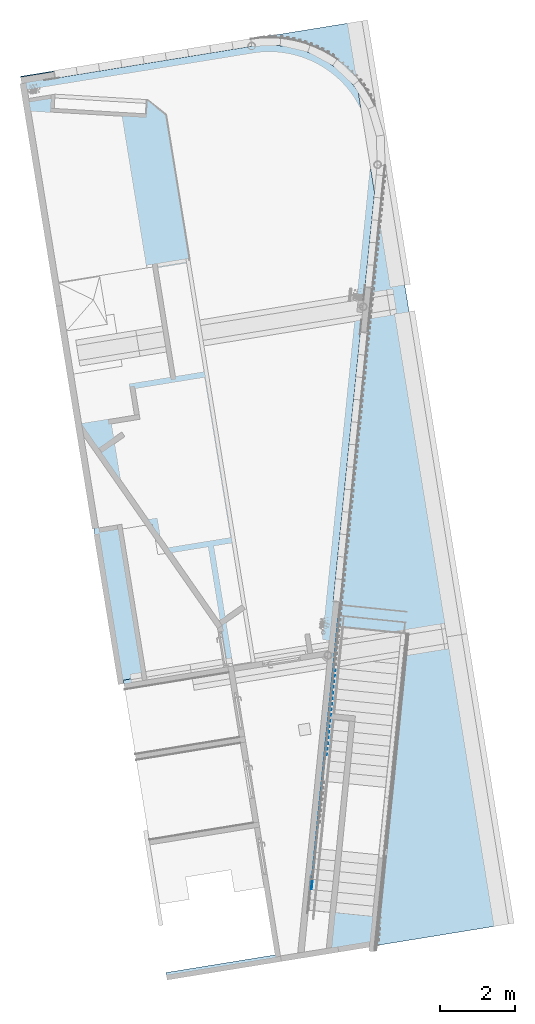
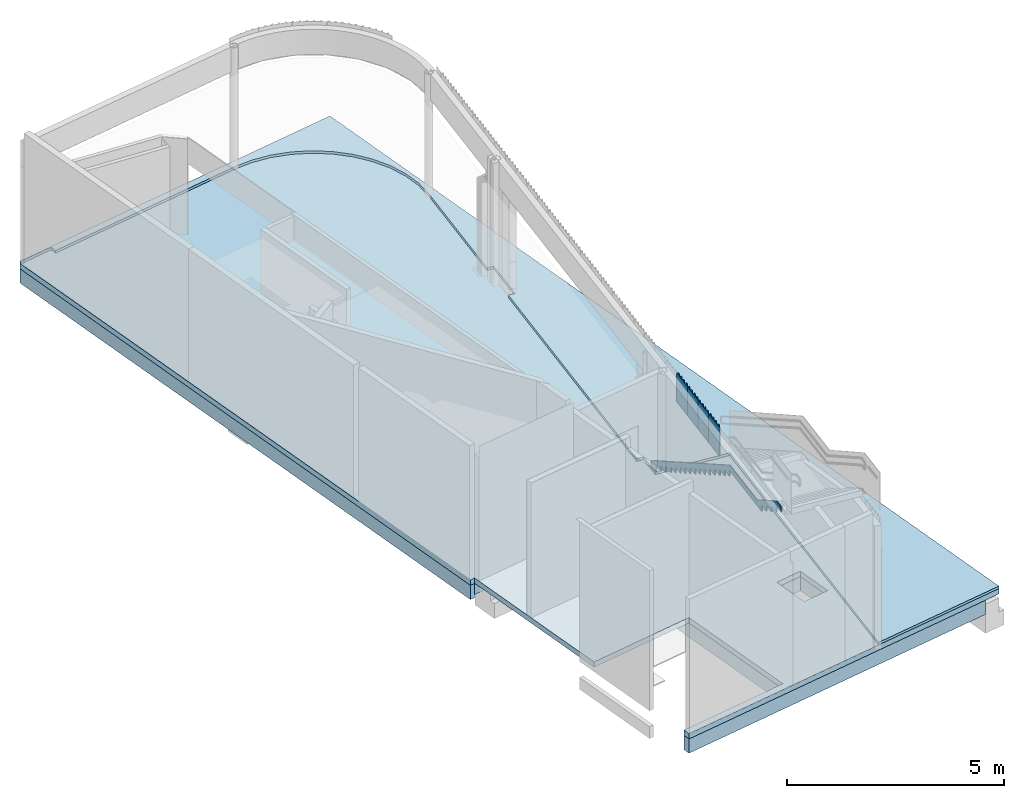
# One storey, part 14 of 23: 5 plates, 3 slabs, 2 elements without a shape of their own.
"""IFC2X3 building model written with IfcOpenShell, lengths in millimetres."""

from ifc_helpers import new_model, entity, si_unit, converted_unit, derived_unit, direction, frame, origin, origin_with_axes, place, context, subcontext, project, spatial, faceted_brep, material, layer, layer_set, type_object, element, aggregate, save


model = new_model("IFC2X3")

# Units and contexts
plan_context = context("Plan", 3, precision=1e-05, world=origin_with_axes())
model_context = context("Model", 3, precision=0.01, world=origin(), true_north=direction((6.12323399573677e-17, 1.0)))
body_context = subcontext(model_context, "Body", "Model", "MODEL_VIEW")
ifc_project = project(units=[converted_unit("PLANEANGLEUNIT", "DEGREE", entity("IfcPositiveLengthMeasure", 0.0174532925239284), si_unit("PLANEANGLEUNIT", "RADIAN"), dimensions=[0, 0, 0, 0, 0, 0, 0]), si_unit("AREAUNIT", "SQUARE_METRE"), si_unit("LENGTHUNIT", "METRE", prefix="MILLI"), si_unit("MASSUNIT", "GRAM", prefix="KILO"), si_unit("POWERUNIT", "WATT"), si_unit("PRESSUREUNIT", "PASCAL", prefix="KILO"), si_unit("FORCEUNIT", "NEWTON", prefix="KILO"), si_unit("ELECTRICVOLTAGEUNIT", "VOLT"), si_unit("ELECTRICCURRENTUNIT", "AMPERE"), si_unit("THERMODYNAMICTEMPERATUREUNIT", "DEGREE_CELSIUS"), si_unit("TIMEUNIT", "SECOND"), si_unit("VOLUMEUNIT", "CUBIC_METRE"), derived_unit("LINEARVELOCITYUNIT", [(si_unit("LENGTHUNIT", "METRE"), 1), (si_unit("TIMEUNIT", "SECOND"), -1)]), derived_unit("VOLUMETRICFLOWRATEUNIT", [(si_unit("VOLUMEUNIT", "CUBIC_METRE"), 1), (si_unit("TIMEUNIT", "SECOND"), -1)]), derived_unit("THERMALTRANSMITTANCEUNIT", [(si_unit("POWERUNIT", "WATT"), 1), (si_unit("THERMODYNAMICTEMPERATUREUNIT", "KELVIN"), -1), (si_unit("AREAUNIT", "SQUARE_METRE"), -1)]), derived_unit("SOUNDPRESSUREUNIT", [(si_unit("PRESSUREUNIT", "PASCAL"), 1)])], contexts=[model_context, plan_context])

# Site, building, storey
site_placement = place(None, frame((-0.00071070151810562, 0.00438415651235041, 0.0), z_axis=(0.0, 0.0, 1.0), x_axis=(-0.160236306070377, 0.987078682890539, 0.0)))
site = spatial("IfcSite", under=ifc_project, at=site_placement, Name="Default", CompositionType="ELEMENT")
building_placement = place(site_placement, origin_with_axes())
building = spatial("IfcBuilding", under=site, at=building_placement, Name="TOO", CompositionType="ELEMENT")
storey_placement = place(building_placement, frame((0.0, 0.0, 58999.9999999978), z_axis=(0.0, 0.0, 1.0), x_axis=(1.0, 0.0, 0.0)))
storey = spatial("IfcBuildingStorey", under=building, at=storey_placement, Name="Nivå F", CompositionType="ELEMENT", Elevation=58999.9999999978)

# Curtain wall, plates
curtain_wall_type = type_object("IfcCurtainWallType", Name="Curtain Wall:Curtain Wall Standard (Bruk kun denne)", PredefinedType="NOTDEFINED")
curtain_wall_1_placement = place(storey_placement, frame((0.0, 0.0, -58999.9999999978), z_axis=(0.0, 0.0, 1.0), x_axis=(1.0, 0.0, 0.0)))
curtain_wall_1 = element("IfcCurtainWall", 1, at=curtain_wall_1_placement, inside=storey, type_object=curtain_wall_type, Name="Curtain Wall:Curtain Wall Standard (Bruk kun denne)", ObjectType="Curtain Wall:Curtain Wall Standard (Bruk kun denne)")
ifc_material_1 = material(Name="A200 - Treverk - Eik")
plate_type_1 = type_object("IfcPlateType", Name="A246 - T01 Trespiler-panel 600:A246-T01 Trespiler-panel 600", PredefinedType="CURTAIN_PANEL", material=ifc_material_1)
plate_1_placement = place(curtain_wall_1_placement, frame((768454.602285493, -506055.175292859, 61699.9999999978), z_axis=(0.0, 0.0, 1.0), x_axis=(0.965925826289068, -0.258819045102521, 0.0)))
plate_1 = element("IfcPlate", 2, at=plate_1_placement, type_object=plate_type_1, Name="A246 - T01 Trespiler-panel 600:A246-T01 Trespiler-panel 600", ObjectType="A246 - T01 Trespiler-panel 600:A246-T01 Trespiler-panel 600", context=body_context, shape_type="Brep", body=[
    faceted_brep([(-150.0, -50.0000000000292, 800.000000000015), (-150.0, -9.99999999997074, 800.000000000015), (-150.0, -9.99999999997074, 0.0), (-150.0, -50.0000000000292, 0.0), (-190.0, -9.99999999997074, 800.000000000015), (-190.0, -9.99999999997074, 0.0), (-190.0, -50.0000000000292, 800.000000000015), (-190.0, -50.0000000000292, 0.0)], [[[0, 1, 2, 3]], [[1, 4, 5, 2]], [[4, 6, 7, 5]], [[6, 0, 3, 7]], [[3, 2, 5, 7]], [[6, 4, 1, 0]]], orient=[[False], [False], [False], [False], [False], [False]]),
    faceted_brep([(-3.5527136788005e-15, -50.0000000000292, 800.000000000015), (-3.5527136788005e-15, -9.99999999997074, 800.000000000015), (-3.5527136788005e-15, -9.99999999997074, 0.0), (-3.5527136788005e-15, -50.0000000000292, 0.0), (-40.0, -9.99999999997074, 800.000000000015), (-40.0, -9.99999999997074, 0.0), (-40.0, -50.0000000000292, 800.000000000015), (-40.0, -50.0000000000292, 0.0)], [[[0, 1, 2, 3]], [[1, 4, 5, 2]], [[4, 6, 7, 5]], [[6, 0, 3, 7]], [[3, 2, 5, 7]], [[6, 4, 1, 0]]], orient=[[False], [False], [False], [False], [False], [False]]),
    faceted_brep([(150.0, -50.0000000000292, 800.000000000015), (150.0, -9.99999999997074, 800.000000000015), (150.0, -9.99999999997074, 0.0), (150.0, -50.0000000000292, 0.0), (110.0, -9.99999999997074, 800.000000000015), (110.0, -9.99999999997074, 0.0), (110.0, -50.0000000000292, 800.000000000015), (110.0, -50.0000000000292, 0.0)], [[[0, 1, 2, 3]], [[1, 4, 5, 2]], [[4, 6, 7, 5]], [[6, 0, 3, 7]], [[3, 2, 5, 7]], [[6, 4, 1, 0]]], orient=[[False], [False], [False], [False], [False], [False]]),
    faceted_brep([(300.0, -50.0000000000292, 800.000000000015), (300.0, -9.99999999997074, 800.000000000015), (300.0, -9.99999999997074, 0.0), (300.0, -50.0000000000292, 0.0), (260.0, -9.99999999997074, 800.000000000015), (260.0, -9.99999999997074, 0.0), (260.0, -50.0000000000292, 800.000000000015), (260.0, -50.0000000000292, 0.0)], [[[0, 1, 2, 3]], [[1, 4, 5, 2]], [[4, 6, 7, 5]], [[6, 0, 3, 7]], [[3, 2, 5, 7]], [[6, 4, 1, 0]]], orient=[[False], [False], [False], [False], [False], [False]]),
    faceted_brep([(300.0, -10.0, 800.000000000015), (300.0, 0.0, 800.000000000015), (300.0, 0.0, 0.0), (300.0, -10.0, 0.0), (-300.0, 0.0, 800.000000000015), (-300.0, 0.0, 0.0), (-300.0, -10.0, 800.000000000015), (-300.0, -10.0, 0.0)], [[[0, 1, 2, 3]], [[1, 4, 5, 2]], [[4, 6, 7, 5]], [[6, 0, 3, 7]], [[3, 2, 5, 7]], [[6, 4, 1, 0]]], orient=[[False], [False], [False], [False], [False], [False]]),
])
plate_2_placement = place(curtain_wall_1_placement, frame((769034.157781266, -506210.466719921, 61699.9999999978), z_axis=(0.0, 0.0, 1.0), x_axis=(0.965925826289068, -0.258819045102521, 0.0)))
plate_2 = element("IfcPlate", 3, at=plate_2_placement, type_object=plate_type_1, Name="A246 - T01 Trespiler-panel 600:A246-T01 Trespiler-panel 600", ObjectType="A246 - T01 Trespiler-panel 600:A246-T01 Trespiler-panel 600", context=body_context, shape_type="Brep", body=[
    faceted_brep([(-150.0, -50.0000000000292, 800.000000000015), (-150.0, -9.99999999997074, 800.000000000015), (-150.0, -9.99999999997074, 0.0), (-150.0, -50.0000000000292, 0.0), (-190.0, -9.99999999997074, 800.000000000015), (-190.0, -9.99999999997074, 0.0), (-190.0, -50.0000000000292, 800.000000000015), (-190.0, -50.0000000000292, 0.0)], [[[0, 1, 2, 3]], [[1, 4, 5, 2]], [[4, 6, 7, 5]], [[6, 0, 3, 7]], [[3, 2, 5, 7]], [[6, 4, 1, 0]]], orient=[[False], [False], [False], [False], [False], [False]]),
    faceted_brep([(-3.5527136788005e-15, -50.0000000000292, 800.000000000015), (-3.5527136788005e-15, -9.99999999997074, 800.000000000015), (-3.5527136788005e-15, -9.99999999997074, 0.0), (-3.5527136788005e-15, -50.0000000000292, 0.0), (-40.0, -9.99999999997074, 800.000000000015), (-40.0, -9.99999999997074, 0.0), (-40.0, -50.0000000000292, 800.000000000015), (-40.0, -50.0000000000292, 0.0)], [[[0, 1, 2, 3]], [[1, 4, 5, 2]], [[4, 6, 7, 5]], [[6, 0, 3, 7]], [[3, 2, 5, 7]], [[6, 4, 1, 0]]], orient=[[False], [False], [False], [False], [False], [False]]),
    faceted_brep([(150.0, -50.0000000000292, 800.000000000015), (150.0, -9.99999999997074, 800.000000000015), (150.0, -9.99999999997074, 0.0), (150.0, -50.0000000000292, 0.0), (110.0, -9.99999999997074, 800.000000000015), (110.0, -9.99999999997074, 0.0), (110.0, -50.0000000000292, 800.000000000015), (110.0, -50.0000000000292, 0.0)], [[[0, 1, 2, 3]], [[1, 4, 5, 2]], [[4, 6, 7, 5]], [[6, 0, 3, 7]], [[3, 2, 5, 7]], [[6, 4, 1, 0]]], orient=[[False], [False], [False], [False], [False], [False]]),
    faceted_brep([(300.0, -50.0000000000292, 800.000000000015), (300.0, -9.99999999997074, 800.000000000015), (300.0, -9.99999999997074, 0.0), (300.0, -50.0000000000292, 0.0), (260.0, -9.99999999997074, 800.000000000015), (260.0, -9.99999999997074, 0.0), (260.0, -50.0000000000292, 800.000000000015), (260.0, -50.0000000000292, 0.0)], [[[0, 1, 2, 3]], [[1, 4, 5, 2]], [[4, 6, 7, 5]], [[6, 0, 3, 7]], [[3, 2, 5, 7]], [[6, 4, 1, 0]]], orient=[[False], [False], [False], [False], [False], [False]]),
    faceted_brep([(300.0, -10.0, 800.000000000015), (300.0, 0.0, 800.000000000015), (300.0, 0.0, 0.0), (300.0, -10.0, 0.0), (-300.0, 0.0, 800.000000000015), (-300.0, 0.0, 0.0), (-300.0, -10.0, 800.000000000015), (-300.0, -10.0, 0.0)], [[[0, 1, 2, 3]], [[1, 4, 5, 2]], [[4, 6, 7, 5]], [[6, 0, 3, 7]], [[3, 2, 5, 7]], [[6, 4, 1, 0]]], orient=[[False], [False], [False], [False], [False], [False]]),
])
plate_3_placement = place(curtain_wall_1_placement, frame((769613.71327704, -506365.758146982, 61699.9999999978), z_axis=(0.0, 0.0, 1.0), x_axis=(0.965925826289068, -0.258819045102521, 0.0)))
plate_3 = element("IfcPlate", 4, at=plate_3_placement, type_object=plate_type_1, Name="A246 - T01 Trespiler-panel 600:A246-T01 Trespiler-panel 600", ObjectType="A246 - T01 Trespiler-panel 600:A246-T01 Trespiler-panel 600", context=body_context, shape_type="Brep", body=[
    faceted_brep([(-150.0, -50.0000000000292, 800.000000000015), (-150.0, -9.99999999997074, 800.000000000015), (-150.0, -9.99999999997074, 0.0), (-150.0, -50.0000000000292, 0.0), (-190.0, -9.99999999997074, 800.000000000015), (-190.0, -9.99999999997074, 0.0), (-190.0, -50.0000000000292, 800.000000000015), (-190.0, -50.0000000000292, 0.0)], [[[0, 1, 2, 3]], [[1, 4, 5, 2]], [[4, 6, 7, 5]], [[6, 0, 3, 7]], [[3, 2, 5, 7]], [[6, 4, 1, 0]]], orient=[[False], [False], [False], [False], [False], [False]]),
    faceted_brep([(-3.5527136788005e-15, -50.0000000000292, 800.000000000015), (-3.5527136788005e-15, -9.99999999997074, 800.000000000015), (-3.5527136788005e-15, -9.99999999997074, 0.0), (-3.5527136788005e-15, -50.0000000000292, 0.0), (-40.0, -9.99999999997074, 800.000000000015), (-40.0, -9.99999999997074, 0.0), (-40.0, -50.0000000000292, 800.000000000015), (-40.0, -50.0000000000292, 0.0)], [[[0, 1, 2, 3]], [[1, 4, 5, 2]], [[4, 6, 7, 5]], [[6, 0, 3, 7]], [[3, 2, 5, 7]], [[6, 4, 1, 0]]], orient=[[False], [False], [False], [False], [False], [False]]),
    faceted_brep([(150.0, -50.0000000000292, 800.000000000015), (150.0, -9.99999999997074, 800.000000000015), (150.0, -9.99999999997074, 0.0), (150.0, -50.0000000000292, 0.0), (110.0, -9.99999999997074, 800.000000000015), (110.0, -9.99999999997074, 0.0), (110.0, -50.0000000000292, 800.000000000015), (110.0, -50.0000000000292, 0.0)], [[[0, 1, 2, 3]], [[1, 4, 5, 2]], [[4, 6, 7, 5]], [[6, 0, 3, 7]], [[3, 2, 5, 7]], [[6, 4, 1, 0]]], orient=[[False], [False], [False], [False], [False], [False]]),
    faceted_brep([(300.0, -50.0000000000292, 800.000000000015), (300.0, -9.99999999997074, 800.000000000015), (300.0, -9.99999999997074, 0.0), (300.0, -50.0000000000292, 0.0), (260.0, -9.99999999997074, 800.000000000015), (260.0, -9.99999999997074, 0.0), (260.0, -50.0000000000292, 800.000000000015), (260.0, -50.0000000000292, 0.0)], [[[0, 1, 2, 3]], [[1, 4, 5, 2]], [[4, 6, 7, 5]], [[6, 0, 3, 7]], [[3, 2, 5, 7]], [[6, 4, 1, 0]]], orient=[[False], [False], [False], [False], [False], [False]]),
    faceted_brep([(300.0, -10.0, 800.000000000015), (300.0, 0.0, 800.000000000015), (300.0, 0.0, 0.0), (300.0, -10.0, 0.0), (-300.0, 0.0, 800.000000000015), (-300.0, 0.0, 0.0), (-300.0, -10.0, 800.000000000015), (-300.0, -10.0, 0.0)], [[[0, 1, 2, 3]], [[1, 4, 5, 2]], [[4, 6, 7, 5]], [[6, 0, 3, 7]], [[3, 2, 5, 7]], [[6, 4, 1, 0]]], orient=[[False], [False], [False], [False], [False], [False]]),
])
plate_4_placement = place(curtain_wall_1_placement, frame((770193.268772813, -506521.049574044, 61699.9999999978), z_axis=(0.0, 0.0, 1.0), x_axis=(0.965925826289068, -0.258819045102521, 0.0)))
plate_4 = element("IfcPlate", 5, at=plate_4_placement, type_object=plate_type_1, Name="A246 - T01 Trespiler-panel 600:A246-T01 Trespiler-panel 600", ObjectType="A246 - T01 Trespiler-panel 600:A246-T01 Trespiler-panel 600", context=body_context, shape_type="Brep", body=[
    faceted_brep([(-150.0, -50.0000000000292, 800.000000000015), (-150.0, -9.99999999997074, 800.000000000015), (-150.0, -9.99999999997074, 0.0), (-150.0, -50.0000000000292, 0.0), (-190.0, -9.99999999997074, 800.000000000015), (-190.0, -9.99999999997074, 0.0), (-190.0, -50.0000000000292, 800.000000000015), (-190.0, -50.0000000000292, 0.0)], [[[0, 1, 2, 3]], [[1, 4, 5, 2]], [[4, 6, 7, 5]], [[6, 0, 3, 7]], [[3, 2, 5, 7]], [[6, 4, 1, 0]]], orient=[[False], [False], [False], [False], [False], [False]]),
    faceted_brep([(-3.5527136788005e-15, -50.0000000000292, 800.000000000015), (-3.5527136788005e-15, -9.99999999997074, 800.000000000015), (-3.5527136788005e-15, -9.99999999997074, 0.0), (-3.5527136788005e-15, -50.0000000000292, 0.0), (-40.0, -9.99999999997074, 800.000000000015), (-40.0, -9.99999999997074, 0.0), (-40.0, -50.0000000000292, 800.000000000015), (-40.0, -50.0000000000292, 0.0)], [[[0, 1, 2, 3]], [[1, 4, 5, 2]], [[4, 6, 7, 5]], [[6, 0, 3, 7]], [[3, 2, 5, 7]], [[6, 4, 1, 0]]], orient=[[False], [False], [False], [False], [False], [False]]),
    faceted_brep([(150.0, -50.0000000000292, 800.000000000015), (150.0, -9.99999999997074, 800.000000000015), (150.0, -9.99999999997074, 0.0), (150.0, -50.0000000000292, 0.0), (110.0, -9.99999999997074, 800.000000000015), (110.0, -9.99999999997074, 0.0), (110.0, -50.0000000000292, 800.000000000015), (110.0, -50.0000000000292, 0.0)], [[[0, 1, 2, 3]], [[1, 4, 5, 2]], [[4, 6, 7, 5]], [[6, 0, 3, 7]], [[3, 2, 5, 7]], [[6, 4, 1, 0]]], orient=[[False], [False], [False], [False], [False], [False]]),
    faceted_brep([(300.0, -50.0000000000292, 800.000000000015), (300.0, -9.99999999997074, 800.000000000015), (300.0, -9.99999999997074, 0.0), (300.0, -50.0000000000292, 0.0), (260.0, -9.99999999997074, 800.000000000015), (260.0, -9.99999999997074, 0.0), (260.0, -50.0000000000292, 800.000000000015), (260.0, -50.0000000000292, 0.0)], [[[0, 1, 2, 3]], [[1, 4, 5, 2]], [[4, 6, 7, 5]], [[6, 0, 3, 7]], [[3, 2, 5, 7]], [[6, 4, 1, 0]]], orient=[[False], [False], [False], [False], [False], [False]]),
    faceted_brep([(300.0, -10.0, 800.000000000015), (300.0, 0.0, 800.000000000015), (300.0, 0.0, 0.0), (300.0, -10.0, 0.0), (-300.0, 0.0, 800.000000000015), (-300.0, 0.0, 0.0), (-300.0, -10.0, 800.000000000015), (-300.0, -10.0, 0.0)], [[[0, 1, 2, 3]], [[1, 4, 5, 2]], [[4, 6, 7, 5]], [[6, 0, 3, 7]], [[3, 2, 5, 7]], [[6, 4, 1, 0]]], orient=[[False], [False], [False], [False], [False], [False]]),
])
aggregate(curtain_wall_1, [plate_1, plate_2, plate_3, plate_4])

# Curtain wall, plate
curtain_wall_2_placement = place(storey_placement, frame((0.0, 0.0, -58999.9999999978), z_axis=(0.0, 0.0, 1.0), x_axis=(1.0, 0.0, 0.0)))
curtain_wall_2 = element("IfcCurtainWall", 6, at=curtain_wall_2_placement, inside=storey, type_object=curtain_wall_type, Name="Curtain Wall:Curtain Wall Standard (Bruk kun denne)", ObjectType="Curtain Wall:Curtain Wall Standard (Bruk kun denne)")
ifc_material_2 = material(Name="A249 - S01 _sokkel veggkledning")
plate_type_2 = type_object("IfcPlateType", Name="System Panel:A249-S02 - Sokkel veggkledning flush hovedpaviljong", PredefinedType="CURTAIN_PANEL", material=ifc_material_2)
plate_5_placement = place(curtain_wall_2_placement, frame((768056.282698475, -505948.445881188, 58999.9999999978), z_axis=(0.0, 0.0, 1.0), x_axis=(0.965925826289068, -0.258819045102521, 0.0)))
plate_5 = element("IfcPlate", 7, at=plate_5_placement, type_object=plate_type_2, Name="System Panel:A249-S02 - Sokkel veggkledning flush hovedpaviljong", ObjectType="System Panel:A249-S02 - Sokkel veggkledning flush hovedpaviljong", context=body_context, shape_type="Brep", body=[
    faceted_brep([(3649.99999998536, -10.0, -3.1786385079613e-08), (3649.99999998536, 10.0, -3.1786385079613e-08), (3649.99999998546, 10.0, 172.391304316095), (3649.99999998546, -10.0, 172.391304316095), (3389.40208708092, 10.0, 172.391304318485), (3389.40208708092, -10.0, 172.391304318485), (3389.40208708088, 10.0, 339.78260866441), (3389.40208708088, -10.0, 339.78260866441), (3104.99999998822, 10.0, 339.782608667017), (3104.99999998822, -10.0, 339.782608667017), (3104.99999998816, 10.0, 507.1739130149), (3104.99999998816, -10.0, 507.1739130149), (2829.99999998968, 10.0, 507.173913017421), (2829.99999998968, -10.0, 507.173913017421), (2829.99999998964, 10.0, 674.565217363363), (2829.99999998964, -10.0, 674.565217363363), (2554.99999999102, 10.0, 674.565217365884), (2554.99999999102, -10.0, 674.565217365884), (2554.99999999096, 10.0, 841.956521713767), (2554.99999999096, -10.0, 841.956521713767), (2279.99999999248, 10.0, 841.956521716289), (2279.99999999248, -10.0, 841.956521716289), (2279.99999999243, 10.0, 1009.34782606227), (2279.99999999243, -10.0, 1009.34782606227), (2004.9999999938, 10.0, 1009.34782606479), (2004.9999999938, -10.0, 1009.34782606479), (2004.99999999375, 10.0, 1176.73913041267), (2004.99999999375, -10.0, 1176.73913041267), (1729.99999999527, 10.0, 1176.73913041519), (1729.99999999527, -10.0, 1176.73913041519), (1729.99999999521, 10.0, 1344.13043476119), (1729.99999999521, -10.0, 1344.13043476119), (1454.99999999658, 10.0, 1344.13043476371), (1454.99999999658, -10.0, 1344.13043476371), (1454.99999999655, 10.0, 1511.52173911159), (1454.99999999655, -10.0, 1511.52173911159), (1179.9999999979, 10.0, 1511.52173911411), (1179.9999999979, -10.0, 1511.52173911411), (1179.99999999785, 10.0, 1678.91304346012), (1179.99999999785, -10.0, 1678.91304346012), (904.999999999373, 10.0, 1678.91304346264), (904.999999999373, -10.0, 1678.91304346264), (904.999999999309, 10.0, 1846.30434781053), (904.999999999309, -10.0, 1846.30434781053), (630.000000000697, 10.0, 1846.30434781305), (630.000000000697, -10.0, 1846.30434781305), (630.000000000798, 10.0, 2013.69565216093), (630.000000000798, -10.0, 2013.69565216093), (355.000000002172, 10.0, 2013.69565216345), (355.000000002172, -10.0, 2013.69565216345), (355.000000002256, 10.0, 2181.08695650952), (355.000000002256, -10.0, 2181.08695650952), (80.0000000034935, 10.0, 2181.08695651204), (80.0000000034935, -10.0, 2181.08695651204), (80.0000000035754, 10.0, 2348.47826085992), (80.0000000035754, -10.0, 2348.47826085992), (-194.999999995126, 10.0, 2348.47826086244), (-194.999999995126, -10.0, 2348.47826086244), (-194.999999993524, 10.0, 2515.86956521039), (-194.999999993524, -10.0, 2515.86956521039), (-469.999999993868, 10.0, 2515.86956521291), (-469.999999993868, -10.0, 2515.86956521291), (-469.99999999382, 10.0, 2683.26086956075), (-469.99999999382, -10.0, 2683.26086956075), (-2269.99999999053, 10.0, 2683.26086957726), (-2269.99999999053, -10.0, 2683.26086957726), (-2269.9999999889, 10.0, 2850.65217392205), (-2269.9999999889, -10.0, 2850.65217392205), (-2544.99999998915, 10.0, 2850.65217392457), (-2544.99999998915, -10.0, 2850.65217392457), (-2544.99999998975, 10.0, 3018.04347826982), (-2544.99999998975, -10.0, 3018.04347826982), (-2819.99999998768, 10.0, 3018.04347827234), (-2819.99999998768, -10.0, 3018.04347827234), (-2819.9999999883, 10.0, 3185.43478261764), (-2819.9999999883, -10.0, 3185.43478261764), (-3094.99999998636, 10.0, 3185.43478262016), (-3094.99999998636, -10.0, 3185.43478262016), (-3094.99999998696, 10.0, 3352.82608696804), (-3094.99999998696, -10.0, 3352.82608696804), (-3369.99999998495, 10.0, 3352.82608697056), (-3369.99999998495, -10.0, 3352.82608697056), (-3369.99999998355, 10.0, 3500.00000000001), (-3369.99999998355, -10.0, 3500.00000000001), (-3113.18779423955, -10.0, 3500.00000000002), (-3113.18779423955, 10.0, 3500.00000000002), (-2001.40208000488, 10.0, 2823.26086957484), (-2001.40208000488, -10.0, 2823.26086957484), (-476.402080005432, 10.0, 2823.26086956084), (-476.402080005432, -10.0, 2823.26086956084), (3924.99999998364, 10.0, 144.146559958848), (3924.99999998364, -10.0, 144.146559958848), (3924.99999998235, 10.0, -3.43075043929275e-08), (3924.99999998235, -10.0, -3.43075043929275e-08)], [[[0, 1, 2, 3]], [[3, 2, 4, 5]], [[5, 4, 6, 7]], [[7, 6, 8, 9]], [[9, 8, 10, 11]], [[11, 10, 12, 13]], [[13, 12, 14, 15]], [[15, 14, 16, 17]], [[17, 16, 18, 19]], [[19, 18, 20, 21]], [[21, 20, 22, 23]], [[23, 22, 24, 25]], [[25, 24, 26, 27]], [[27, 26, 28, 29]], [[29, 28, 30, 31]], [[31, 30, 32, 33]], [[33, 32, 34, 35]], [[35, 34, 36, 37]], [[37, 36, 38, 39]], [[39, 38, 40, 41]], [[41, 40, 42, 43]], [[43, 42, 44, 45]], [[45, 44, 46, 47]], [[47, 46, 48, 49]], [[49, 48, 50, 51]], [[51, 50, 52, 53]], [[53, 52, 54, 55]], [[55, 54, 56, 57]], [[57, 56, 58, 59]], [[59, 58, 60, 61]], [[61, 60, 62, 63]], [[63, 62, 64, 65]], [[65, 64, 66, 67]], [[67, 66, 68, 69]], [[69, 68, 70, 71]], [[71, 70, 72, 73]], [[73, 72, 74, 75]], [[75, 74, 76, 77]], [[77, 76, 78, 79]], [[79, 78, 80, 81]], [[82, 83, 81, 80]], [[84, 85, 86, 87]], [[87, 86, 88, 89]], [[89, 88, 90, 91]], [[91, 90, 92, 93]], [[93, 92, 1, 0]], [[83, 84, 87, 89, 91, 93, 0, 3, 5, 7, 9, 11, 13, 15, 17, 19, 21, 23, 25, 27, 29, 31, 33, 35, 37, 39, 41, 43, 45, 47, 49, 51, 53, 55, 57, 59, 61, 63, 65, 67, 69, 71, 73, 75, 77, 79, 81]], [[85, 82, 80, 78, 76, 74, 72, 70, 68, 66, 64, 62, 60, 58, 56, 54, 52, 50, 48, 46, 44, 42, 40, 38, 36, 34, 32, 30, 28, 26, 24, 22, 20, 18, 16, 14, 12, 10, 8, 6, 4, 2, 1, 92, 90, 88, 86]], [[85, 84, 83, 82]]], orient=[[False], [False], [False], [False], [False], [False], [False], [False], [False], [False], [False], [False], [False], [False], [False], [False], [False], [False], [False], [False], [False], [False], [False], [False], [False], [False], [False], [False], [False], [False], [False], [False], [False], [False], [False], [False], [False], [False], [False], [False], [False], [False], [False], [False], [False], [False], [False], [False], [False]]),
])
aggregate(curtain_wall_2, [plate_5])

# Slabs
ifc_material_3 = material(Name="_NSW Betong")
ifc_layer_1 = layer(ifc_material_3, 400.0)
ifc_layer_set_1 = layer_set([ifc_layer_1], Name="Floor:A252 - Hulldekke 400 mm")
slab_type_1 = type_object("IfcSlabType", Name="Floor:A252 - Hulldekke 400 mm", PredefinedType="FLOOR", material=ifc_layer_set_1)
slab_1_placement = place(storey_placement, origin_with_axes())
element("IfcSlab", 8, at=slab_1_placement, inside=storey, type_object=slab_type_1, Name="Floor:A252 - Hulldekke 400 mm", ObjectType="Floor:A252 - Hulldekke 400 mm", PredefinedType="FLOOR", context=body_context, shape_type="Brep", body=[
    faceted_brep([(787388.155021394, -509703.409465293, -220.0), (787388.155021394, -509703.409465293, -619.999999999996), (763050.119644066, -509703.409465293, -619.999999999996), (763050.119644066, -509703.409465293, -220.0), (763050.119644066, -500902.480498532, -220.0), (763237.119644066, -500902.480498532, -219.999999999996), (763237.119644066, -503842.229552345, -219.999999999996), (771095.369644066, -503842.229552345, -219.999999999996), (771095.369644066, -501027.480498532, -219.999999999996), (771002.619644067, -501027.480498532, -220.0), (771002.619644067, -500902.480498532, -220.0), (787388.155021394, -500902.480498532, -220.0), (766477.073108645, -506303.362236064, -220.000000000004), (765477.073833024, -506303.362236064, -220.000000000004), (765477.073833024, -507003.320015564, -220.000000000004), (766477.073108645, -507003.320015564, -220.000000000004), (787388.155021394, -500902.480498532, -619.999999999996), (771002.619644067, -500902.480498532, -620.0), (771002.619644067, -501027.480498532, -620.0), (771095.369644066, -501027.480498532, -620.0), (771095.369644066, -503842.229552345, -620.0), (763237.119644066, -503842.229552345, -620.0), (763237.119644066, -500902.480498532, -620.0), (763050.119644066, -500902.480498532, -619.999999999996), (765477.073833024, -506303.362236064, -620.0), (766477.073108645, -506303.362236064, -620.0), (766477.073108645, -507003.320015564, -620.0), (765477.073833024, -507003.320015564, -620.0)], [[[0, 1, 2, 3]], [[3, 4, 5, 6, 7, 8, 9, 10, 11, 0], [12, 13, 14, 15]], [[1, 16, 17, 18, 19, 20, 21, 22, 23, 2], [24, 25, 26, 27]], [[18, 9, 8, 19]], [[17, 10, 9, 18]], [[5, 22, 21, 6]], [[20, 7, 6, 21]], [[19, 8, 7, 20]], [[26, 15, 14, 27]], [[25, 12, 15, 26]], [[24, 13, 12, 25]], [[27, 14, 13, 24]], [[16, 1, 0, 11]], [[23, 22, 5, 4]], [[11, 10, 17, 16]], [[4, 3, 2, 23]]], orient=[[False], [False, False], [False, False], [False], [False], [False], [False], [False], [False], [False], [False], [False], [False], [False], [False], [False]]),
])
ifc_material_4 = material(Name="A255-Flis Apavisa 600x600")
ifc_layer_2 = layer(ifc_material_4, 5.0)
ifc_material_5 = material(Name="A255 - Avretting")
ifc_layer_3 = layer(ifc_material_5, 65.0)
ifc_layer_set_2 = layer_set([ifc_layer_2, ifc_layer_3], Name="Floor:A255-K03 Keramisk flis - Lys 600x600mm")
slab_type_2 = type_object("IfcSlabType", Name="Floor:A255-K03 Keramisk flis - Lys 600x600mm", PredefinedType="FLOOR", material=ifc_layer_set_2)
slab_2_placement = place(storey_placement, frame((715279.356707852, -534302.480498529, -70.0), z_axis=(0.0, 0.0, 1.0), x_axis=(1.0, 0.0, 0.0)))
element("IfcSlab", 9, at=slab_2_placement, inside=storey, type_object=slab_type_2, Name="Floor:A255-K03 Keramisk flis - Lys 600x600mm", ObjectType="Floor:A255-K03 Keramisk flis - Lys 600x600mm", PredefinedType="FLOOR", context=body_context, shape_type="Brep", body=[
    faceted_brep([(72083.2629362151, 33399.999999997, 70.0), (72108.7983135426, 33399.999999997, 70.0), (72108.7983135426, 24199.9999999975, 70.0), (47770.7629362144, 24199.9999999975, 70.0), (47770.7629362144, 27774.8471832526, 70.0), (55822.4160242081, 25617.4410928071, 70.0), (56309.1171604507, 27433.8344613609, 70.0), (56949.6746955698, 27262.1667369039, 70.0), (56993.6813118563, 27426.3721502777, 70.0), (63946.5526164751, 25563.0210383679, 70.0), (63902.5460001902, 25398.815625, 70.0), (65058.0033249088, 25089.1561193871, 70.0), (65102.0238556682, 25253.4134529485, 70.0), (68268.8180113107, 24404.7209987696, 70.0), (68268.8561478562, 24404.8633007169, 70.0), (68742.9579664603, 24319.3049241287, 70.0), (69224.6837085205, 24313.5534334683, 70.0), (69700.6931129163, 24387.7681027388, 70.0), (70157.8042190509, 24539.8937312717, 70.0), (70583.3584102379, 24765.717557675, 70.0), (70965.5709643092, 25058.9859223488, 70.0), (71293.8574037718, 25411.5774478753, 70.0), (71559.1266080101, 25813.7279414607, 70.0), (71754.0325704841, 26254.3007912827, 70.0), (71873.1778290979, 26721.0953687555, 70.0), (71913.2629362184, 27201.1848962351, 70.0), (71913.2629362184, 32499.9999999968, 70.0), (72083.2629362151, 32499.9999999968, 70.0), (47770.7629362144, 27774.8471832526, 0.0), (47770.7629362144, 24199.9999999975, -1.47792889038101e-12), (72108.7983135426, 24199.9999999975, -1.36424205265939e-12), (72108.7983135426, 33399.999999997, -1.47792889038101e-12), (72083.2629362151, 33399.999999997, 0.0), (72083.2629362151, 32499.9999999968, 0.0), (71913.2629362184, 32499.9999999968, 0.0), (71913.2629362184, 27201.1848962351, 0.0), (71873.1778290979, 26721.0953687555, 0.0), (71754.0325704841, 26254.3007912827, 0.0), (71559.1266080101, 25813.7279414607, 0.0), (71293.8574037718, 25411.5774478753, 0.0), (70965.5709643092, 25058.9859223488, 0.0), (70583.3584102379, 24765.717557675, 0.0), (70157.8042190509, 24539.8937312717, 0.0), (69700.6931129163, 24387.7681027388, 0.0), (69224.6837085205, 24313.5534334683, 0.0), (68742.9579664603, 24319.3049241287, 0.0), (68268.8561478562, 24404.8633007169, 0.0), (68268.8180113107, 24404.7209987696, 0.0), (65102.0238556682, 25253.4134529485, 0.0), (65058.0033249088, 25089.1561193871, 0.0), (63902.5460001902, 25398.815625, 0.0), (63946.5526164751, 25563.0210383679, 0.0), (56993.6813118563, 27426.3721502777, 0.0), (56949.6746955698, 27262.1667369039, 0.0), (56309.1171604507, 27433.8344613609, 0.0), (55822.4160242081, 25617.4410928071, 0.0)], [[[0, 1, 2, 3, 4, 5, 6, 7, 8, 9, 10, 11, 12, 13, 14, 15, 16, 17, 18, 19, 20, 21, 22, 23, 24, 25, 26, 27]], [[28, 29, 30, 31, 32, 33, 34, 35, 36, 37, 38, 39, 40, 41, 42, 43, 44, 45, 46, 47, 48, 49, 50, 51, 52, 53, 54, 55]], [[26, 34, 33, 27]], [[25, 35, 34, 26]], [[24, 36, 35, 25]], [[23, 37, 36, 24]], [[22, 38, 37, 23]], [[21, 39, 38, 22]], [[20, 40, 39, 21]], [[19, 41, 40, 20]], [[18, 42, 41, 19]], [[17, 43, 42, 18]], [[16, 44, 43, 17]], [[15, 45, 44, 16]], [[14, 46, 45, 15]], [[13, 47, 46, 14]], [[12, 48, 47, 13]], [[11, 49, 48, 12]], [[10, 50, 49, 11]], [[9, 51, 50, 10]], [[8, 52, 51, 9]], [[7, 53, 52, 8]], [[6, 54, 53, 7]], [[5, 55, 54, 6]], [[4, 28, 55, 5]], [[32, 0, 27, 33]], [[2, 1, 31, 30]], [[1, 0, 32, 31]], [[29, 28, 4, 3]], [[3, 2, 30, 29]]], orient=[[False], [False], [False], [False], [False], [False], [False], [False], [False], [False], [False], [False], [False], [False], [False], [False], [False], [False], [False], [False], [False], [False], [False], [False], [False], [False], [False], [False], [False], [False]]),
])
ifc_layer_4 = layer(ifc_material_3, 150.0)
ifc_layer_set_3 = layer_set([ifc_layer_4], Name="Floor:A253 - Betong Påstop 150mm")
slab_type_3 = type_object("IfcSlabType", Name="Floor:A253 - Betong Påstop 150mm", PredefinedType="FLOOR", material=ifc_layer_set_3)
slab_3_placement = place(storey_placement, frame((715279.853090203, -529702.480498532, -220.0), z_axis=(0.0, 0.0, 1.0), x_axis=(1.0, 0.0, 0.0)))
element("IfcSlab", 10, at=slab_3_placement, inside=storey, type_object=slab_type_3, Name="Floor:A253 - Betong Påstop 150mm", ObjectType="Floor:A253 - Betong Påstop 150mm", PredefinedType="FLOOR", context=body_context, shape_type="Brep", body=[
    faceted_brep([(55722.766553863, 28799.9999999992, 150.0), (72108.3019311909, 28799.9999999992, 150.0), (72108.3019311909, 19599.9999999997, 150.0), (47770.2665538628, 19599.9999999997, 150.0), (47770.2665538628, 28799.9999999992, 150.0), (47957.2665538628, 28799.9999999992, 150.0), (47957.2665538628, 25860.2509461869, 150.0), (51378.0165538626, 25860.2509461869, 150.0), (51378.0165538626, 28674.9999999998, 150.0), (55722.766553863, 28674.9999999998, 150.0), (51197.2200181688, 23399.1457375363, 150.0), (50197.220744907, 23399.1457375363, 150.0), (50197.220744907, 22699.1604827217, 150.0), (51197.2200181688, 22699.1604827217, 150.0), (47957.2665538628, 28799.9999999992, 0.0), (47770.2665538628, 28799.9999999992, -3.41060513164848e-13), (47770.2665538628, 19599.9999999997, -3.41060513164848e-13), (72108.3019311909, 19599.9999999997, -4.54747350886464e-13), (72108.3019311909, 28799.9999999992, -3.41060513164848e-13), (55722.766553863, 28799.9999999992, 0.0), (55722.766553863, 28674.9999999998, 0.0), (51378.0165538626, 28674.9999999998, 0.0), (51378.0165538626, 25860.2509461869, 0.0), (47957.2665538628, 25860.2509461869, 0.0), (50197.220744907, 23399.1457375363, 0.0), (51197.2200181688, 23399.1457375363, 0.0), (51197.2200181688, 22699.1604827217, 0.0), (50197.220744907, 22699.1604827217, 0.0)], [[[0, 1, 2, 3, 4, 5, 6, 7, 8, 9], [10, 11, 12, 13]], [[14, 15, 16, 17, 18, 19, 20, 21, 22, 23], [24, 25, 26, 27]], [[8, 21, 20, 9]], [[7, 22, 21, 8]], [[6, 23, 22, 7]], [[5, 14, 23, 6]], [[19, 0, 9, 20]], [[12, 27, 26, 13]], [[11, 24, 27, 12]], [[10, 25, 24, 11]], [[13, 26, 25, 10]], [[2, 1, 18, 17]], [[15, 14, 5, 4]], [[1, 0, 19, 18]], [[4, 3, 16, 15]], [[3, 2, 17, 16]]], orient=[[False, False], [False, False], [False], [False], [False], [False], [False], [False], [False], [False], [False], [False], [False], [False], [False], [False]]),
])

save(model, "model.ifc")
